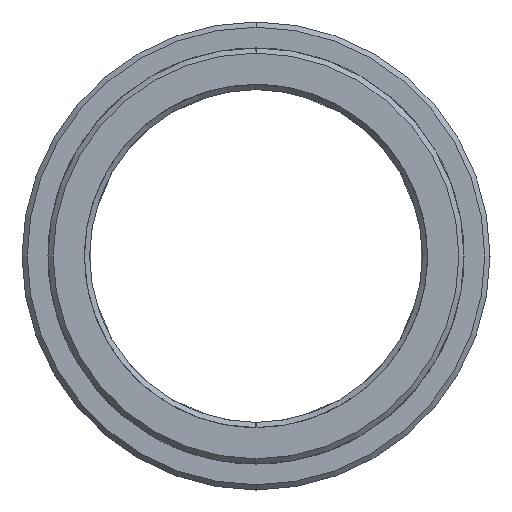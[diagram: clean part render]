
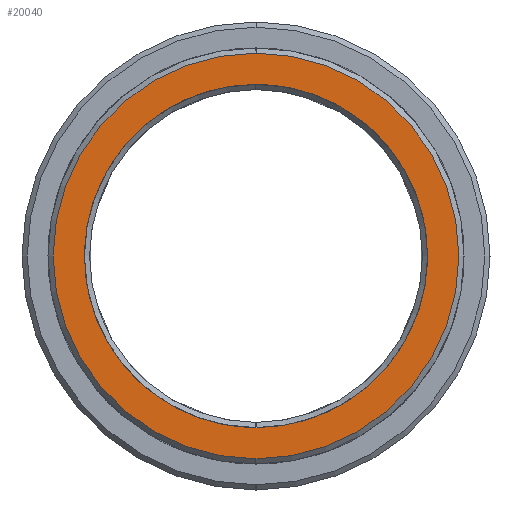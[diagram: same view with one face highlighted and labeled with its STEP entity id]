
A CAD part, left-side view. The second image highlights one B-rep face of the part: STEP entity #20040.
In plain terms, the highlighted planar face has unit normal (1, 0, 0).
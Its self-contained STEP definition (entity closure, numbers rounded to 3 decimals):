
#19957=CARTESIAN_POINT('Axis2P3D Location',(-25.,0.,0.)) ;
#19962=CARTESIAN_POINT('Axis2P3D Location',(-25.,0.,0.)) ;
#19966=CARTESIAN_POINT('Vertex',(-25.,0.,19.5)) ;
#19968=CARTESIAN_POINT('Vertex',(-25.,0.,-19.5)) ;
#19971=CARTESIAN_POINT('Axis2P3D Location',(-25.,0.,0.)) ;
#19981=CARTESIAN_POINT('Control Point',(-25.,0.,16.5)) ;
#19982=CARTESIAN_POINT('Control Point',(-25.,1.592,16.5)) ;
#19983=CARTESIAN_POINT('Control Point',(-25.,3.184,16.308)) ;
#19984=CARTESIAN_POINT('Control Point',(-25.,4.745,15.924)) ;
#19985=CARTESIAN_POINT('Control Point',(-25.,7.744,14.787)) ;
#19986=CARTESIAN_POINT('Control Point',(-25.,10.386,12.97)) ;
#19987=CARTESIAN_POINT('Control Point',(-25.,11.591,11.905)) ;
#19988=CARTESIAN_POINT('Control Point',(-25.,13.72,9.507)) ;
#19989=CARTESIAN_POINT('Control Point',(-25.,15.218,6.671)) ;
#19990=CARTESIAN_POINT('Control Point',(-25.,15.791,5.169)) ;
#19991=CARTESIAN_POINT('Control Point',(-25.,16.565,2.057)) ;
#19992=CARTESIAN_POINT('Control Point',(-25.,16.576,-1.15)) ;
#19993=CARTESIAN_POINT('Control Point',(-25.,16.387,-2.747)) ;
#19994=CARTESIAN_POINT('Control Point',(-25.,15.629,-5.863)) ;
#19995=CARTESIAN_POINT('Control Point',(-25.,14.151,-8.709)) ;
#19996=CARTESIAN_POINT('Control Point',(-25.,13.243,-10.036)) ;
#19997=CARTESIAN_POINT('Control Point',(-25.,11.125,-12.444)) ;
#19998=CARTESIAN_POINT('Control Point',(-25.,8.496,-14.28)) ;
#19999=CARTESIAN_POINT('Control Point',(-25.,7.076,-15.034)) ;
#20000=CARTESIAN_POINT('Control Point',(-25.,4.813,-15.904)) ;
#20001=CARTESIAN_POINT('Control Point',(-25.,2.442,-16.349)) ;
#20002=CARTESIAN_POINT('Control Point',(-25.,1.631,-16.45)) ;
#20003=CARTESIAN_POINT('Control Point',(-25.,0.815,-16.5)) ;
#20004=CARTESIAN_POINT('Control Point',(-25.,0.,-16.5)) ;
#20005=CARTESIAN_POINT('Vertex',(-25.,0.,16.5)) ;
#20007=CARTESIAN_POINT('Vertex',(-25.,0.,-16.5)) ;
#20011=CARTESIAN_POINT('Control Point',(-25.,0.,-16.5)) ;
#20012=CARTESIAN_POINT('Control Point',(-25.,-1.592,-16.5)) ;
#20013=CARTESIAN_POINT('Control Point',(-25.,-3.184,-16.308)) ;
#20014=CARTESIAN_POINT('Control Point',(-25.,-4.745,-15.924)) ;
#20015=CARTESIAN_POINT('Control Point',(-25.,-7.744,-14.787)) ;
#20016=CARTESIAN_POINT('Control Point',(-25.,-10.386,-12.97)) ;
#20017=CARTESIAN_POINT('Control Point',(-25.,-11.591,-11.905)) ;
#20018=CARTESIAN_POINT('Control Point',(-25.,-13.72,-9.507)) ;
#20019=CARTESIAN_POINT('Control Point',(-25.,-15.218,-6.671)) ;
#20020=CARTESIAN_POINT('Control Point',(-25.,-15.791,-5.169)) ;
#20021=CARTESIAN_POINT('Control Point',(-25.,-16.565,-2.057)) ;
#20022=CARTESIAN_POINT('Control Point',(-25.,-16.576,1.15)) ;
#20023=CARTESIAN_POINT('Control Point',(-25.,-16.387,2.747)) ;
#20024=CARTESIAN_POINT('Control Point',(-25.,-15.629,5.863)) ;
#20025=CARTESIAN_POINT('Control Point',(-25.,-14.151,8.709)) ;
#20026=CARTESIAN_POINT('Control Point',(-25.,-13.243,10.036)) ;
#20027=CARTESIAN_POINT('Control Point',(-25.,-11.125,12.444)) ;
#20028=CARTESIAN_POINT('Control Point',(-25.,-8.496,14.28)) ;
#20029=CARTESIAN_POINT('Control Point',(-25.,-7.076,15.034)) ;
#20030=CARTESIAN_POINT('Control Point',(-25.,-4.813,15.904)) ;
#20031=CARTESIAN_POINT('Control Point',(-25.,-2.442,16.349)) ;
#20032=CARTESIAN_POINT('Control Point',(-25.,-1.631,16.45)) ;
#20033=CARTESIAN_POINT('Control Point',(-25.,-0.815,16.5)) ;
#20034=CARTESIAN_POINT('Control Point',(-25.,0.,16.5)) ;
#19958=DIRECTION('Axis2P3D Direction',(1.,0.,0.)) ;
#19959=DIRECTION('Axis2P3D XDirection',(0.,1.,0.)) ;
#19963=DIRECTION('Axis2P3D Direction',(1.,0.,0.)) ;
#19972=DIRECTION('Axis2P3D Direction',(1.,0.,0.)) ;
#19960=AXIS2_PLACEMENT_3D('Plane Axis2P3D',#19957,#19958,#19959) ;
#19964=AXIS2_PLACEMENT_3D('Circle Axis2P3D',#19962,#19963,$) ;
#19973=AXIS2_PLACEMENT_3D('Circle Axis2P3D',#19971,#19972,$) ;
#19977=ORIENTED_EDGE('',*,*,#19970,.T.) ;
#19978=ORIENTED_EDGE('',*,*,#19975,.T.) ;
#20037=ORIENTED_EDGE('',*,*,#20009,.T.) ;
#20038=ORIENTED_EDGE('',*,*,#20035,.T.) ;
#20039=FACE_BOUND('',#20036,.T.) ;
#20040=ADVANCED_FACE('MANIFOLD_SOLID_BREP #13835',(#19979,#20039),#19961,.T.) ;
#19980=B_SPLINE_CURVE_WITH_KNOTS('',5,(#19981,#19982,#19983,#19984,#19985,#19986,#19987,#19988,#19989,#19990,#19991,#19992,#19993,#19994,#19995,#19996,#19997,#19998,#19999,#20000,#20001,#20002,#20003,#20004),.UNSPECIFIED.,.F.,.U.,(6,3,3,3,3,3,3,6),(0.,11.257,22.514,33.771,45.028,56.284,67.541,73.307),.UNSPECIFIED.) ;
#20010=B_SPLINE_CURVE_WITH_KNOTS('',5,(#20011,#20012,#20013,#20014,#20015,#20016,#20017,#20018,#20019,#20020,#20021,#20022,#20023,#20024,#20025,#20026,#20027,#20028,#20029,#20030,#20031,#20032,#20033,#20034),.UNSPECIFIED.,.F.,.U.,(6,3,3,3,3,3,3,6),(0.,11.257,22.514,33.771,45.028,56.284,67.541,73.307),.UNSPECIFIED.) ;
#19965=CIRCLE('generated circle',#19964,19.5) ;
#19974=CIRCLE('generated circle',#19973,19.5) ;
#19970=EDGE_CURVE('',#19967,#19969,#19965,.T.) ;
#19975=EDGE_CURVE('',#19969,#19967,#19974,.T.) ;
#20009=EDGE_CURVE('',#20006,#20008,#19980,.T.) ;
#20035=EDGE_CURVE('',#20008,#20006,#20010,.T.) ;
#19976=EDGE_LOOP('',(#19977,#19978)) ;
#20036=EDGE_LOOP('',(#20037,#20038)) ;
#19979=FACE_OUTER_BOUND('',#19976,.T.) ;
#19961=PLANE('Plane',#19960) ;
#19967=VERTEX_POINT('',#19966) ;
#19969=VERTEX_POINT('',#19968) ;
#20006=VERTEX_POINT('',#20005) ;
#20008=VERTEX_POINT('',#20007) ;
